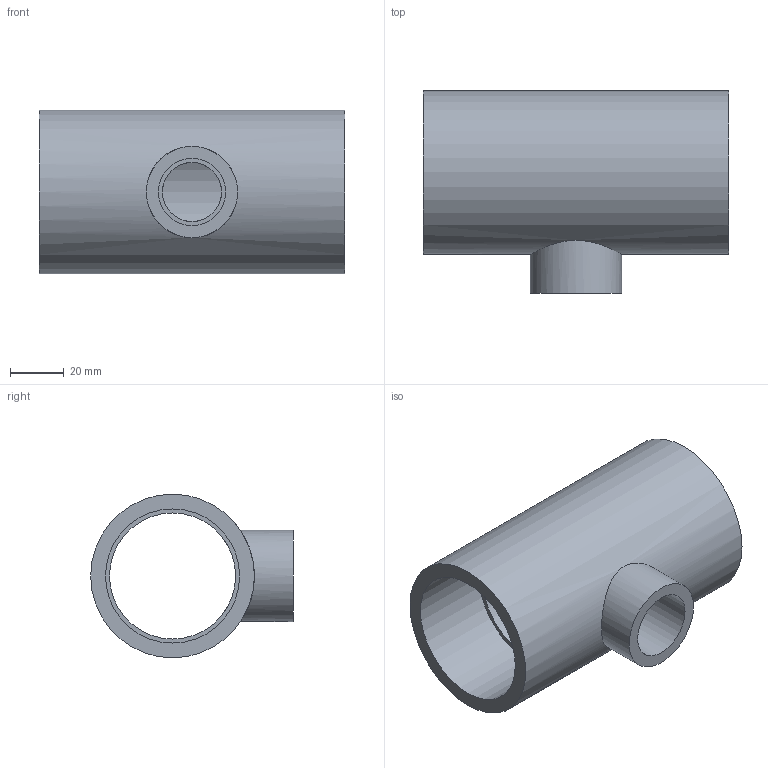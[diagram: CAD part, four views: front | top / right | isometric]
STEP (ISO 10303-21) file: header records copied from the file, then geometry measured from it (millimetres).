
FILE_DESCRIPTION(/* description */ ('PVC ti a 90° ridotto incollaggio metrico'),/* implementation_level */ '2;1');
FILE_NAME(/* name */ 'C:\Users\POLYPIPE\Desktop\DATASET INVENTOR\LIBRERIA EFFAST\RACCORDI 3DxWEB\RDR\3D_RDRTRD\3D_RDRTRD050C.stp',/* time_stamp */ '2018-01-19T15:46:43+01:00',/* author */ ('POLYPIPE'),/* organization */ ('Polypipe Italia s.r.l.'),/* preprocessor_version */ 'ST-DEVELOPER v16.1',/* originating_system */ 'Autodesk Inventor 2016',/* authorisation */ '');
FILE_SCHEMA (('CONFIG_CONTROL_DESIGN'));
Length unit declared in the file: millimetre
Products named in the file (1): 3D_RDRTRD
Bounding box: 114 x 75.5 x 61 mm (x, y, z)
Volume: 124996.7 mm3; surface area: 44407.9 mm2
Topology: 1 solids, 1 shells, 13 faces, 23 edges, 16 vertices
Faces by surface type: cylinder 7, plane 6
Full cylindrical faces by diameter (mm): 22 x1, 25 x1, 34 x1, 47 x1, 50 x2, 61 x1
Entity records: 390 total; most frequent: CARTESIAN_POINT 132, DIRECTION 52, EDGE_LOOP 28, ORIENTED_EDGE 28, AXIS2_PLACEMENT_3D 26, FACE_BOUND 15, VERTEX_POINT 14, EDGE_CURVE 14
